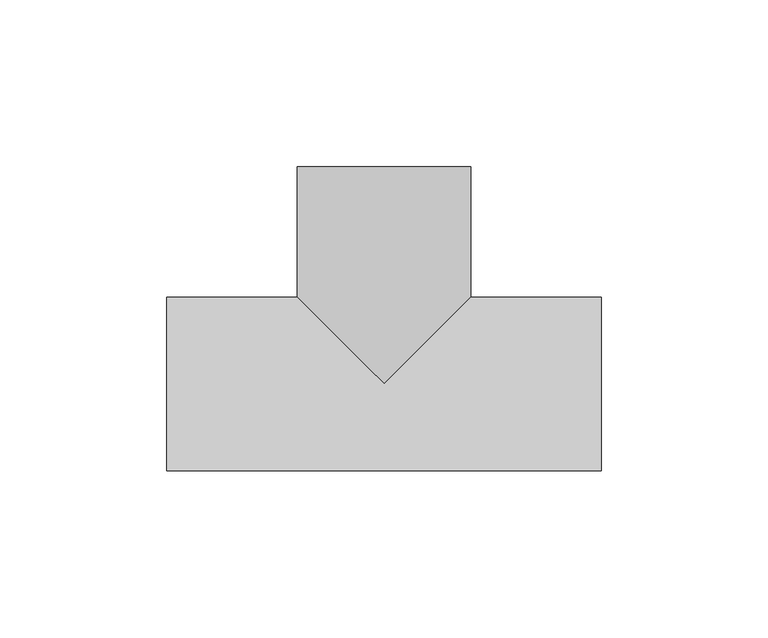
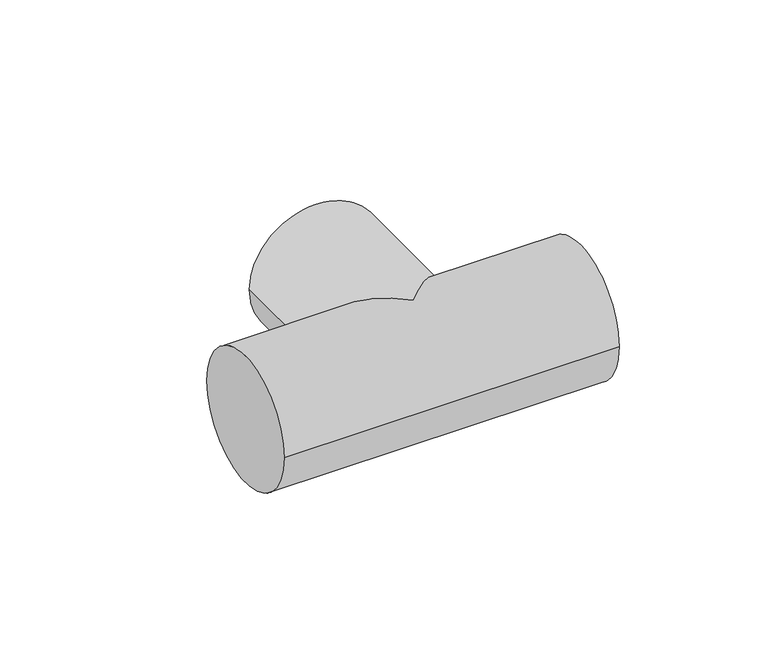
"""IFC4 building model written with IfcOpenShell, lengths in millimetres: cable carrier fitting geometry, Тройник открывающийся TIG : Тройник открывающийся TIG."""

from ifc_helpers import new_model, si_unit, frame, origin, place, context, project, spatial, circle_curve, ellipse_curve, source, transform, mapped, element, save
from ifc_brep_helpers import plane_surface, cylinder_surface, advanced_brep


def cable_carrier_fitting_9b2a14fc(model_context):
    return source(origin(), model_context, "Body", "AdvancedBrep", [
        advanced_brep(
        [(65.0, -26.0, 0.0), (65.0, 26.0, 0.0), (-65.0, -26.0, 0.0), (-65.0, 26.0, 0.0), (-26.0, 26.0, 0.0), (0.0, 0.0, -26.0), (26.0, 26.0, 0.0), (0.0, 0.0, 26.0), (-26.0, 65.0, 0.0), (26.0, 65.0, 0.0)],
        [
            (0, 1, circle_curve(frame((65.0, 0.0, 0.0), z_axis=(1.0, 0.0, 0.0), x_axis=(0.0, 1.0, 0.0)), 26.0)),
            (1, 0, circle_curve(frame((65.0, 0.0, 0.0), z_axis=(1.0, 0.0, 0.0), x_axis=(0.0, 1.0, 0.0)), 26.0)),
            (2, 3, circle_curve(frame((-65.0, 0.0, 0.0), z_axis=(-1.0, 0.0, 0.0), x_axis=(0.0, 1.0, 0.0)), 26.0)),
            (3, 2, circle_curve(frame((-65.0, 0.0, 0.0), z_axis=(-1.0, 0.0, 0.0), x_axis=(0.0, 1.0, 0.0)), 26.0)),
            (0, 2),
            (3, 4),
            (4, 5, ellipse_curve(frame((0.0, 0.0, 0.0), z_axis=(-0.7071067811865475, -0.7071067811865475, 0.0), x_axis=(0.7071067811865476, -0.7071067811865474, 0.0)), 36.7695526, 26.0)),
            (5, 6, ellipse_curve(frame((0.0, 0.0, 0.0), z_axis=(0.7071067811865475, -0.7071067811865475, 0.0), x_axis=(0.7071067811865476, 0.7071067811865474, 0.0)), 36.7695526, 26.0)),
            (6, 1),
            (6, 7, ellipse_curve(frame((0.0, 0.0, 0.0), z_axis=(0.7071067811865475, -0.7071067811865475, 0.0), x_axis=(0.7071067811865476, 0.7071067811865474, 0.0)), 36.7695526, 26.0)),
            (7, 4, ellipse_curve(frame((0.0, 0.0, 0.0), z_axis=(-0.7071067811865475, -0.7071067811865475, 0.0), x_axis=(0.7071067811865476, -0.7071067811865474, 0.0)), 36.7695526, 26.0)),
            (8, 9, circle_curve(frame((0.0, 65.0, 0.0), z_axis=(0.0, 1.0, 0.0), x_axis=(0.9999999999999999, 0.0, 0.0)), 26.0)),
            (9, 8, circle_curve(frame((0.0, 65.0, 0.0), z_axis=(0.0, 1.0, 0.0), x_axis=(0.9999999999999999, 0.0, 0.0)), 26.0)),
            (9, 6),
            (4, 8),
        ],
        [
            plane_surface(frame((65.0, 26.0, 0.0), z_axis=(0.9999999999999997, 0.0, 0.0), x_axis=(0.0, 0.0, 0.9999999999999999))),
            plane_surface(frame((-65.0, 26.0, 0.0), z_axis=(-0.9999999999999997, 0.0, 0.0), x_axis=(0.0, 0.0, -0.9999999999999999))),
            cylinder_surface(frame((-65.0, 0.0, 0.0), z_axis=(0.9999999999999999, 0.0, 0.0), x_axis=(0.0, 1.0, 0.0)), 26.0),
            plane_surface(frame((26.0, 65.0, 0.0), z_axis=(0.0, 0.9999999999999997, 0.0), x_axis=(0.0, 0.0, -0.9999999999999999))),
            cylinder_surface(frame((0.0, 65.0, 0.0), z_axis=(0.0, -0.9999999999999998, 0.0), x_axis=(0.9999999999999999, 0.0, 0.0)), 26.0),
        ],
        [
            (0, [[1, 2]]),
            (1, [[3, 4]]),
            (2, [[-1, 5, -4, 6, 7, 8, 9]]),
            (2, [[-2, -9, 10, 11, -6, -3, -5]]),
            (3, [[12, 13]]),
            (4, [[-13, 14, -8, -7, 15]]),
            (4, [[-12, -15, -11, -10, -14]]),
        ],
    ),
    ])


if __name__ == "__main__":
    model = new_model("IFC4")
    model_context = context("Model", 3, world=origin())
    ifc_project = project(units=[si_unit("LENGTHUNIT", "METRE", prefix="MILLI")], contexts=[model_context])
    site = spatial("IfcSite", under=ifc_project)
    building = spatial("IfcBuilding", under=site)
    placement = place(None, origin())
    cable_carrier_fitting_shape = cable_carrier_fitting_9b2a14fc(model_context)
    element("IfcCableCarrierFitting", 1, ObjectType="Тройник открывающийся TIG : Тройник открывающийся TIG", at=placement, inside=building, context=model_context, shape_type="MappedRepresentation", body=[
        mapped(cable_carrier_fitting_shape, transform((0.0, 0.0, 0.0), x_axis=(1.0, 0.0, 0.0), y_axis=(0.0, 1.0, 0.0), z_axis=(0.0, 0.0, 1.0))),
    ])
    save(model, "model.ifc")
